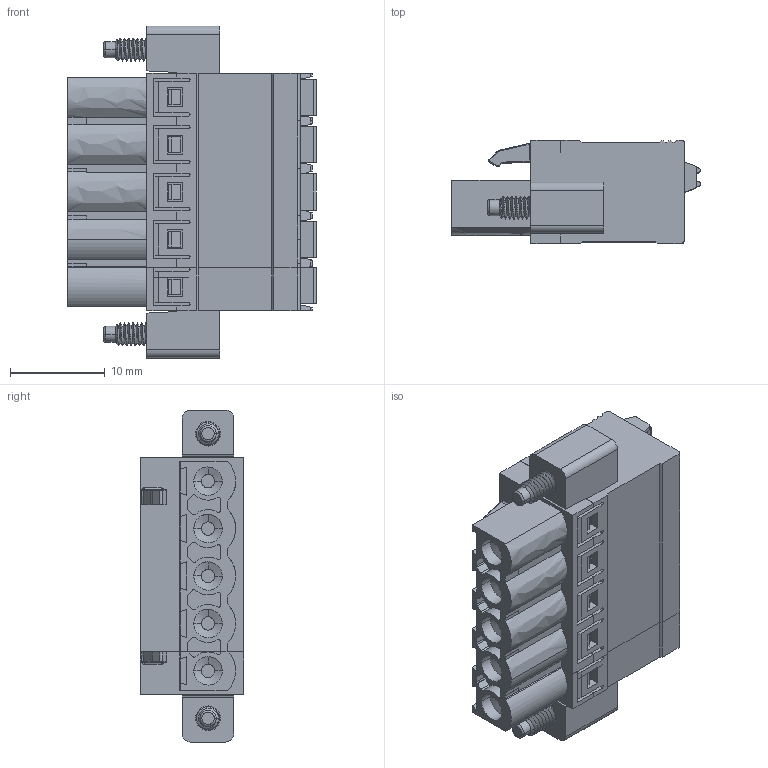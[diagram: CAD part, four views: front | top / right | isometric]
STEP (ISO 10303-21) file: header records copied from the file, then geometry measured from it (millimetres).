
FILE_DESCRIPTION(('Open CASCADE Model'),'2;1');
FILE_NAME('Open CASCADE Shape Model','2022-10-26T14:23:15',('Author'),( 'Open CASCADE'),'Open CASCADE STEP processor 6.5','Open CASCADE 6.5' ,'Unknown');
FILE_SCHEMA(('AUTOMOTIVE_DESIGN { 1 0 10303 214 1 1 1 1 }'));
Length unit declared in the file: millimetre
Products named in the file (1186): CADSOFTTOOLS 2; CADSOFTTOOLS 2.1; CADSOFTTOOLS 2.2; CADSOFTTOOLS 2.3; CADSOFTTOOLS 2.4; CADSOFTTOOLS 2.5; CADSOFTTOOLS 2.6; CADSOFTTOOLS 2.7; CADSOFTTOOLS 2.8; CADSOFTTOOLS 2.9; CADSOFTTOOLS 2.10; CADSOFTTOOLS 2.11; CADSOFTTOOLS 2.12; CADSOFTTOOLS 2.13; CADSOFTTOOLS 2.14; CADSOFTTOOLS 2.15; CADSOFTTOOLS 2.16; CADSOFTTOOLS 2.17; CADSOFTTOOLS 2.18; CADSOFTTOOLS 2.19; CADSOFTTOOLS 2.20; CADSOFTTOOLS 2.21; CADSOFTTOOLS 2.22; CADSOFTTOOLS 2.23; CADSOFTTOOLS 2.24; CADSOFTTOOLS 2.25; CADSOFTTOOLS 2.26; CADSOFTTOOLS 2.27; CADSOFTTOOLS 2.28; CADSOFTTOOLS 2.29; CADSOFTTOOLS 2.30; CADSOFTTOOLS 2.31; CADSOFTTOOLS 2.32; CADSOFTTOOLS 2.33; CADSOFTTOOLS 2.34; CADSOFTTOOLS 2.35; CADSOFTTOOLS 2.36; CADSOFTTOOLS 2.37; CADSOFTTOOLS 2.38; CADSOFTTOOLS 2.39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
Assembly tree (1185 placements, depth 2):
  CADSOFTTOOLS 2
    CADSOFTTOOLS 2.1
    CADSOFTTOOLS 2.2
    CADSOFTTOOLS 2.3
    CADSOFTTOOLS 2.4
    CADSOFTTOOLS 2.5
    CADSOFTTOOLS 2.6
    CADSOFTTOOLS 2.7
    CADSOFTTOOLS 2.8
    CADSOFTTOOLS 2.9
    CADSOFTTOOLS 2.10
    CADSOFTTOOLS 2.11
    CADSOFTTOOLS 2.12
    CADSOFTTOOLS 2.13
    CADSOFTTOOLS 2.14
    CADSOFTTOOLS 2.15
    CADSOFTTOOLS 2.16
    CADSOFTTOOLS 2.17
    CADSOFTTOOLS 2.18
    CADSOFTTOOLS 2.19
    CADSOFTTOOLS 2.20
    CADSOFTTOOLS 2.21
    CADSOFTTOOLS 2.22
    CADSOFTTOOLS 2.23
    CADSOFTTOOLS 2.24
    CADSOFTTOOLS 2.25
    CADSOFTTOOLS 2.26
    CADSOFTTOOLS 2.27
    CADSOFTTOOLS 2.28
    CADSOFTTOOLS 2.29
    CADSOFTTOOLS 2.30
    CADSOFTTOOLS 2.31
    CADSOFTTOOLS 2.32
    CADSOFTTOOLS 2.33
    CADSOFTTOOLS 2.34
    CADSOFTTOOLS 2.35
    CADSOFTTOOLS 2.36
    CADSOFTTOOLS 2.37
    CADSOFTTOOLS 2.38
    CADSOFTTOOLS 2.39
    CADSOFTTOOLS 2.40
    CADSOFTTOOLS 2.41
    CADSOFTTOOLS 2.42
    CADSOFTTOOLS 2.43
    CADSOFTTOOLS 2.44
    CADSOFTTOOLS 2.45
    CADSOFTTOOLS 2.46
    CADSOFTTOOLS 2.47
    CADSOFTTOOLS 2.48
    CADSOFTTOOLS 2.49
    CADSOFTTOOLS 2.50
    CADSOFTTOOLS 2.51
    CADSOFTTOOLS 2.52
    CADSOFTTOOLS 2.53
    CADSOFTTOOLS 2.54
    CADSOFTTOOLS 2.55
    CADSOFTTOOLS 2.56
    CADSOFTTOOLS 2.57
    CADSOFTTOOLS 2.58
    CADSOFTTOOLS 2.59
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Bounding box: 26.2 x 10.9 x 35 mm (x, y, z)
Surface area: 5745.4 mm2 (no closed solid volume)
Topology: 0 solids, 1185 shells, 1185 faces, 6663 edges, 6663 vertices
Faces by surface type: bspline 1185
Entity records: 231238 total; most frequent: CARTESIAN_POINT 151943, B_SPLINE_CURVE_WITH_KNOTS 12110, ORIENTED_EDGE 6663, EDGE_CURVE 6663, VERTEX_POINT 6663, SURFACE_CURVE 6663, PCURVE 6663, DEFINITIONAL_REPRESENTATION 6663
